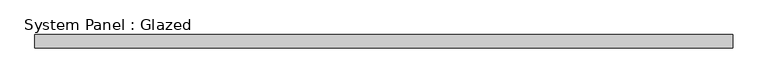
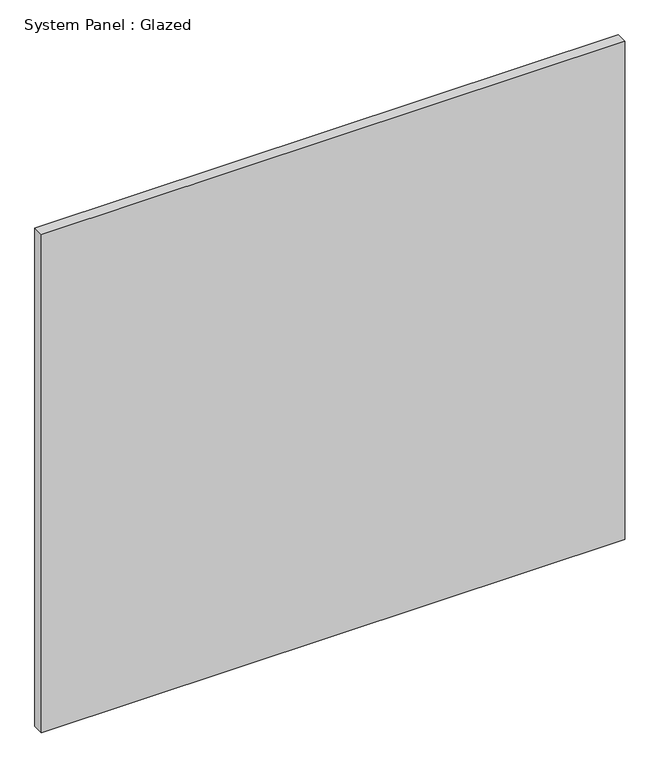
"""IFC4 building model written with IfcOpenShell, lengths in millimetres: plate geometry, System Panel : Glazed."""

from ifc_helpers import new_model, si_unit, origin, origin_with_axes, place, context, project, spatial, polyline, outline, extrude, source, transform, mapped, element, save


def system_panel_glazed_ad5ec275(model_context):
    return source(origin(), model_context, "Body", "SweptSolid", [
        extrude(outline(polyline([(650.4893952, 24.5), (-650.4893952, 24.5), (-650.4893952, 49.5), (650.4893952, 49.5), (650.4893952, 24.5)])), origin_with_axes(), (0.0, 0.0, 1.0), 1175.0),
    ])


if __name__ == "__main__":
    model = new_model("IFC4")
    model_context = context("Model", 3, world=origin())
    ifc_project = project(units=[si_unit("LENGTHUNIT", "METRE", prefix="MILLI")], contexts=[model_context])
    site = spatial("IfcSite", under=ifc_project)
    building = spatial("IfcBuilding", under=site)
    placement = place(None, origin())
    system_panel_glazed_shape = system_panel_glazed_ad5ec275(model_context)
    element("IfcPlate", 1, ObjectType="System Panel : Glazed", at=placement, inside=building, context=model_context, shape_type="MappedRepresentation", body=[
        mapped(system_panel_glazed_shape, transform((0.0, 0.0, 0.0), x_axis=(1.0, 0.0, 0.0), y_axis=(0.0, 1.0, 0.0), z_axis=(0.0, 0.0, 1.0))),
    ])
    save(model, "model.ifc")
